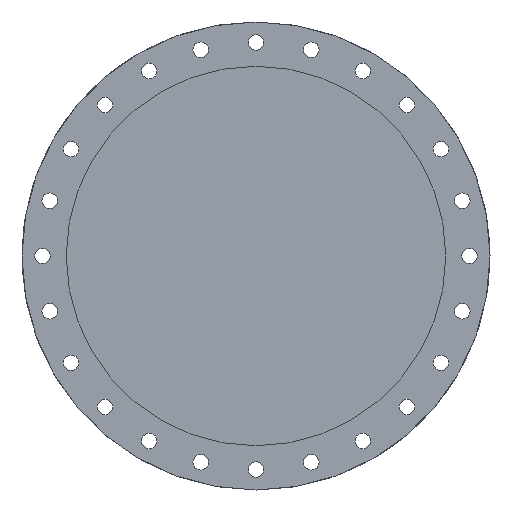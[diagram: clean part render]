
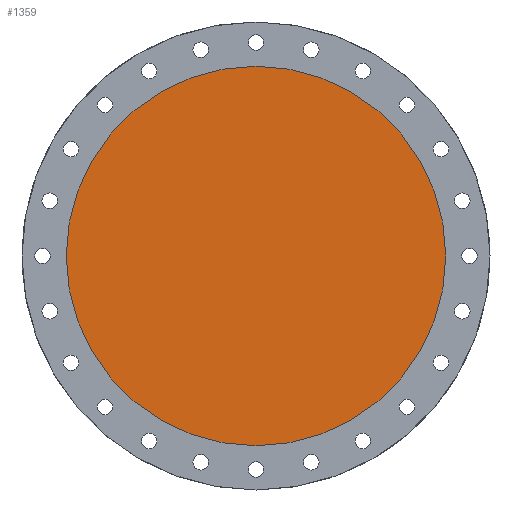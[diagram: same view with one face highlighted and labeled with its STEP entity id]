
A CAD part, front view. The second image highlights one B-rep face of the part: STEP entity #1359.
In plain terms, the highlighted planar face has unit normal (0, -1, 0).
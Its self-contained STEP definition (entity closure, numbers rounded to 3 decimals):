
#7 = CARTESIAN_POINT ( 'NONE',  ( 0., 7.9, -110.65 ) ) ;
#53 = VERTEX_POINT ( 'NONE', #7 ) ;
#185 = VERTEX_POINT ( 'NONE', #696 ) ;
#378 = AXIS2_PLACEMENT_3D ( 'NONE', #887, #1740, #477 ) ;
#477 = DIRECTION ( 'NONE',  ( 0., 0., 1. ) ) ;
#662 = FACE_OUTER_BOUND ( 'NONE', #1069, .T. ) ;
#666 = ORIENTED_EDGE ( 'NONE', *, *, #2513, .T. ) ;
#696 = CARTESIAN_POINT ( 'NONE',  ( 0., 7.9, 110.65 ) ) ;
#704 = DIRECTION ( 'NONE',  ( 0., 0., 1. ) ) ;
#845 = DIRECTION ( 'NONE',  ( 0., 0., 1. ) ) ;
#854 = ORIENTED_EDGE ( 'NONE', *, *, #2480, .T. ) ;
#887 = CARTESIAN_POINT ( 'NONE',  ( 0., 7.9, 111.15 ) ) ;
#1017 = AXIS2_PLACEMENT_3D ( 'NONE', #1688, #1904, #845 ) ;
#1069 = EDGE_LOOP ( 'NONE', ( #666, #854 ) ) ;
#1359 = ADVANCED_FACE ( 'NONE', ( #662 ), #1519, .F. ) ;
#1519 = PLANE ( 'NONE',  #378 ) ;
#1556 = AXIS2_PLACEMENT_3D ( 'NONE', #1929, #2202, #704 ) ;
#1688 = CARTESIAN_POINT ( 'NONE',  ( 0., 7.9, 0. ) ) ;
#1736 = CIRCLE ( 'NONE', #1556, 110.65 ) ;
#1740 = DIRECTION ( 'NONE',  ( 0., 1., 0. ) ) ;
#1904 = DIRECTION ( 'NONE',  ( 0., -1., 0. ) ) ;
#1929 = CARTESIAN_POINT ( 'NONE',  ( 0., 7.9, 0. ) ) ;
#2202 = DIRECTION ( 'NONE',  ( 0., -1., 0. ) ) ;
#2230 = CIRCLE ( 'NONE', #1017, 110.65 ) ;
#2480 = EDGE_CURVE ( 'NONE', #53, #185, #2230, .T. ) ;
#2513 = EDGE_CURVE ( 'NONE', #185, #53, #1736, .T. ) ;
